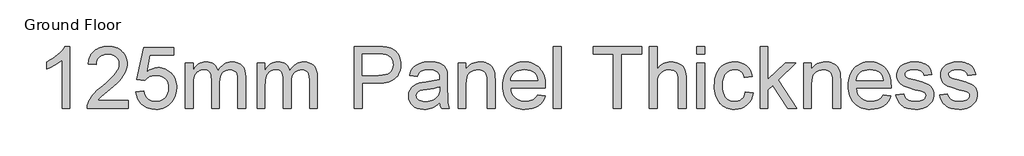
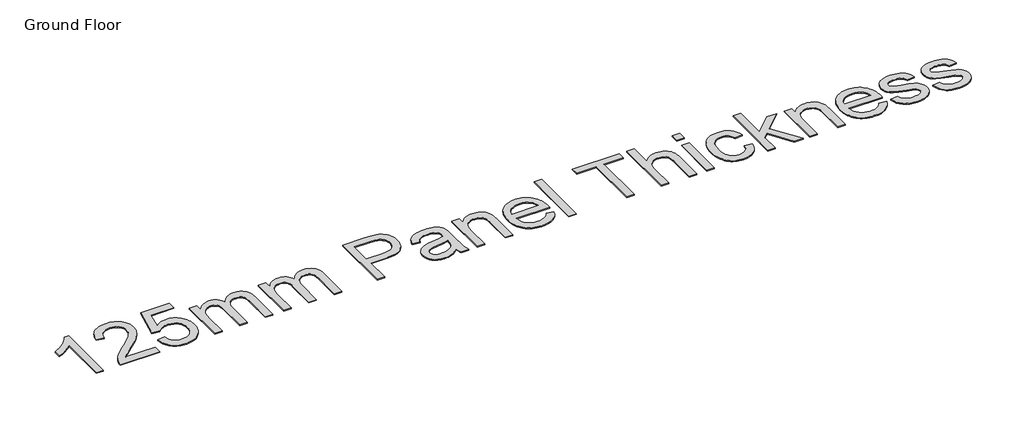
# One storey, part 9 of 11: 1 proxy.
"""IFC4 building model written with IfcOpenShell, lengths in millimetres."""

import ifcopenshell
import ifcopenshell.guid

model = None  # the IFC model being written
_history = None  # IfcOwnerHistory: only IFC2X3 demands one
_inside = {}  # id of a spatial element -> (the spatial element, [elements in it])
_under = {}  # id of a project, library or spatial element -> (it, [spatial elements below it])
_declared = {}  # id of a project -> (the project, [libraries it declares])
_typed = {}  # id of a type object -> (the type object, [elements of that type])
_made_of = {}  # id of a material, layer set ... -> (it, [elements and type objects made of it])


def new_model(schema):
    """Start an empty IFC model of exactly this schema.

    Asked for "IFC4X3", IfcOpenShell would pick the latest addendum, in which some entities
    have other attributes; the version numbers below select the first issue.
    IFC2X3 requires an IfcOwnerHistory on every rooted entity: one is made here for all.
    """
    global model, _history
    if schema == "IFC4X3":
        model = ifcopenshell.file(schema_version=(4, 3, 0, 0))
    else:
        model = ifcopenshell.file(schema=schema)
    _inside.clear()
    _under.clear()
    _declared.clear()
    _typed.clear()
    _made_of.clear()
    _history = None
    if model.schema == "IFC2X3":
        org = make("IfcOrganization", Name="unknown")
        user = make(
            "IfcPersonAndOrganization",
            ThePerson=make("IfcPerson", FamilyName="unknown"),
            TheOrganization=org,
        )
        app = make(
            "IfcApplication",
            ApplicationDeveloper=org,
            Version="unknown",
            ApplicationFullName="unknown",
            ApplicationIdentifier="unknown",
        )
        _history = make(
            "IfcOwnerHistory",
            OwningUser=user,
            OwningApplication=app,
            ChangeAction="ADDED",
            CreationDate=0,
        )
    return model


def make(cls, **values):
    """One entity of the class cls with the attributes given. An attribute that is None is left unset."""
    return model.create_entity(
        cls, **{name: value for name, value in values.items() if value is not None}
    )


def rooted(cls, **values):
    """An entity with a GlobalId (a new one), such as an element, a storey or a relation."""
    return make(cls, GlobalId=ifcopenshell.guid.new(), OwnerHistory=_history, **values)


def si_unit(unit_type, name, prefix=None):
    """IfcSIUnit, for example si_unit("LENGTHUNIT", "METRE", prefix="MILLI")."""
    return make("IfcSIUnit", UnitType=unit_type, Prefix=prefix, Name=name)


def assignment(units):
    """IfcUnitAssignment: the units of a project."""
    return None if units is None else make("IfcUnitAssignment", Units=units)


def point(xyz):
    """IfcCartesianPoint."""
    return None if xyz is None else make("IfcCartesianPoint", Coordinates=xyz)


def direction(xyz):
    """IfcDirection."""
    return None if xyz is None else make("IfcDirection", DirectionRatios=xyz)


def frame(location, z_axis=None, x_axis=None):
    """IfcAxis2Placement3D, a coordinate frame: its origin and axes. An axis left out is left unset."""
    return make(
        "IfcAxis2Placement3D",
        Location=point(location),
        Axis=direction(z_axis),
        RefDirection=direction(x_axis),
    )


def origin():
    """The frame at (0, 0, 0) with its axes left unset."""
    return frame((0.0, 0.0, 0.0))


def origin_with_axes():
    """The frame at (0, 0, 0) with the z axis (0, 0, 1) and the x axis (1, 0, 0) written out."""
    return frame((0.0, 0.0, 0.0), z_axis=(0.0, 0.0, 1.0), x_axis=(1.0, 0.0, 0.0))


def place(relative_to, where):
    """IfcLocalPlacement: puts the frame where relative to a parent placement (None: the world)."""
    return make(
        "IfcLocalPlacement", PlacementRelTo=relative_to, RelativePlacement=where
    )


def context(
    kind, dimensions, precision=None, world=None, true_north=None, identifier=None
):
    """IfcGeometricRepresentationContext, for example the 3D "Model" context."""
    return make(
        "IfcGeometricRepresentationContext",
        ContextIdentifier=identifier,
        ContextType=kind,
        CoordinateSpaceDimension=dimensions,
        Precision=precision,
        WorldCoordinateSystem=world,
        TrueNorth=true_north,
    )


def project(units=None, contexts=None):
    """IfcProject with its units and contexts."""
    return rooted(
        "IfcProject",
        Name="project",
        RepresentationContexts=contexts,
        UnitsInContext=assignment(units),
    )


def spatial(cls, under=None, at=None, **own):
    """A site, building, storey or space (cls), placed at a placement, below another one or the project."""
    s = rooted(cls, ObjectPlacement=at, **own)
    if under is not None:
        _under.setdefault(under.id(), (under, []))[1].append(s)
    return s


def polyline(points):
    """IfcPolyline through the points."""
    return make("IfcPolyline", Points=[point(p) for p in points])


def outline(outer, holes=None, kind="AREA"):
    """IfcArbitraryClosedProfileDef: a profile drawn as a closed curve; with holes, ...WithVoids."""
    if holes is None:
        return make("IfcArbitraryClosedProfileDef", ProfileType=kind, OuterCurve=outer)
    return make(
        "IfcArbitraryProfileDefWithVoids",
        ProfileType=kind,
        OuterCurve=outer,
        InnerCurves=holes,
    )


def extrude(swept, where, along, depth):
    """IfcExtrudedAreaSolid: the profile swept, set in the frame where, extruded along a direction by depth."""
    return make(
        "IfcExtrudedAreaSolid",
        SweptArea=swept,
        Position=where,
        ExtrudedDirection=direction(along),
        Depth=depth,
    )


def shape(context_of_items, identifier, shape_type, items):
    """IfcShapeRepresentation: the items that make up one representation, for example the "Body"."""
    return make(
        "IfcShapeRepresentation",
        ContextOfItems=context_of_items,
        RepresentationIdentifier=identifier,
        RepresentationType=shape_type,
        Items=items,
    )


def made_of(thing, what):
    """Note that an element or type object is made of a material, layer set ...; save() writes the relation."""
    if what is not None:
        _made_of.setdefault(what.id(), (what, []))[1].append(thing)
    return thing


def element(
    cls,
    number,
    at=None,
    inside=None,
    cuts=None,
    type_object=None,
    material=None,
    context=None,
    identifier="Body",
    shape_type=None,
    held_by="IfcProductDefinitionShape",
    body=None,
    shapes=None,
    **own,
):
    """One element of the class cls, such as IfcWall. Its Tag is "e" and its number.

    at: its placement. inside: the storey or other place that contains it. cuts: it is an
    opening in that element (IfcRelVoidsElement). A single representation is given by context,
    identifier, shape_type and body (its items); several are given by shapes. held_by: the class
    of the entity that holds the representations. save() writes the other relations.
    """
    e = rooted(cls, Tag="e%d" % number, ObjectPlacement=at, **own)
    if body is not None:
        shapes = [shape(context, identifier, shape_type, body)]
    if shapes is not None:
        e.Representation = make(held_by, Representations=shapes)
    if inside is not None:
        _inside.setdefault(inside.id(), (inside, []))[1].append(e)
    if cuts is not None:
        rooted(
            "IfcRelVoidsElement", RelatingBuildingElement=cuts, RelatedOpeningElement=e
        )
    if type_object is not None:
        _typed.setdefault(type_object.id(), (type_object, []))[1].append(e)
    return made_of(e, material)


def aggregate(whole, parts):
    """IfcRelAggregates: a whole, such as a stair, and the parts it consists of."""
    return rooted("IfcRelAggregates", RelatingObject=whole, RelatedObjects=parts)


def save(model, path):
    """Write the relations noted so far, then the file.

    IfcRelAggregates (storeys below a building ...), IfcRelContainedInSpatialStructure (elements
    in a storey), IfcRelDefinesByType, IfcRelAssociatesMaterial and IfcRelDeclares: one each for
    every whole, place, type object, material and project.
    """
    for whole, parts in _under.values():
        aggregate(whole, parts)
    for where, things in _inside.values():
        rooted(
            "IfcRelContainedInSpatialStructure",
            RelatedElements=things,
            RelatingStructure=where,
        )
    for kind, things in _typed.values():
        rooted("IfcRelDefinesByType", RelatedObjects=things, RelatingType=kind)
    for what, things in _made_of.values():
        rooted("IfcRelAssociatesMaterial", RelatedObjects=things, RelatingMaterial=what)
    for by, libraries in _declared.values():
        rooted("IfcRelDeclares", RelatingContext=by, RelatedDefinitions=libraries)
    model.write(path)


model = new_model("IFC4")

# Units and contexts
model_context = context("Model", 3, world=origin())
ifc_project = project(units=[si_unit("LENGTHUNIT", "METRE", prefix="MILLI")], contexts=[model_context])

# Site, building, storey
site = spatial("IfcSite", under=ifc_project)
building = spatial("IfcBuilding", under=site)
storey = spatial("IfcBuildingStorey", under=building, Name="Ground Floor", Elevation=0.0)

# Proxy
placement = place(None, origin())
element("IfcBuildingElementProxy", 1, Name="1200mm Arial", ObjectType="1200mm Arial", at=placement, inside=storey, context=model_context, shape_type="SweptSolid", body=[
    extrude(outline(polyline([(72010.1307302, 20341.9259002), (71859.4462649, 20341.9259002), (71859.4462649, 21281.3493631), (71796.5384438, 21230.4712831), (71716.7080508, 21179.6667796), (71632.9045323, 21135.2634228), (71558.0773345, 21103.588783), (71558.0773345, 21246.0326915), (71619.2285191, 21276.6956558), (71676.4249723, 21310.4120407), (71729.6666941, 21347.1818461), (71778.9536844, 21387.0050721), (71822.8144153, 21428.0423086), (71859.7773587, 21468.4541458), (71889.8425148, 21508.2405836), (71913.0098834, 21547.401622), (72010.1307302, 21547.401622), (72010.1307302, 20341.9259002)])), origin_with_axes(), (0.0, 0.0, 1.0), 20.0),
    extrude(outline(polyline([(73140.2642193, 20492.6103654), (73140.2642193, 20341.9259002), (72349.1707769, 20341.9259002), (72352.4817149, 20394.9744839), (72365.3575847, 20445.8157756), (72381.7835158, 20486.7150564), (72402.5136662, 20527.007332), (72427.548036, 20566.6926022), (72456.8866251, 20605.7708671), (72492.2952671, 20645.7688371), (72535.5397957, 20688.2132222), (72645.5365122, 20780.4412384), (72734.9686252, 20857.3837577), (72808.1403541, 20924.8717097), (72865.0516987, 20982.9050945), (72905.7026592, 21031.4839119), (72934.1583315, 21075.0411402), (72954.4838118, 21118.0097572), (72966.6790999, 21160.3897631), (72970.744196, 21202.1811577), (72966.9090262, 21241.4985459), (72955.4035168, 21277.6337549), (72936.2276678, 21310.5867846), (72909.3814792, 21340.3576351), (72876.354873, 21365.0149258), (72838.6377715, 21382.6272763), (72796.2301745, 21393.1946867), (72749.1320821, 21396.7171568), (72699.513998, 21393.2774601), (72655.1382323, 21382.9583701), (72616.0047851, 21365.7598869), (72582.1136563, 21341.6820103), (72554.6972506, 21311.5340808), (72534.9879727, 21276.1254387), (72522.9858226, 21235.4560842), (72518.6908003, 21189.5260171), (72368.0063351, 21208.3615752), (72380.9649783, 21286.1502231), (72391.4243233, 21321.3611286), (72404.5370172, 21354.1164217), (72420.3030599, 21384.4161025), (72438.7224516, 21412.2601711), (72459.7951921, 21437.6486272), (72483.5212815, 21460.5814711), (72509.6432025, 21480.929944), (72537.9034375, 21498.5652871), (72568.3019866, 21513.4875006), (72600.8388498, 21525.6965843), (72672.3275185, 21541.9753626), (72752.3694436, 21547.401622), (72833.1287386, 21541.3683573), (72870.1767548, 21533.8267764), (72905.0036834, 21523.2685631), (72937.6095245, 21509.6937175), (72967.994278, 21493.1022395), (72996.157944, 21473.4941292), (73022.1005225, 21450.8693864), (73045.380555, 21426.0097606), (73065.5565832, 21399.6970009), (73082.628607, 21371.9311073), (73096.5966265, 21342.7120799), (73107.4606417, 21312.0399185), (73115.2206525, 21279.9146233), (73119.876659, 21246.3361942), (73121.4286612, 21211.3046312), (73119.7547981, 21175.1142399), (73114.7332089, 21139.2365483), (73106.3638935, 21103.6715564), (73094.6468519, 21068.4192643), (73079.0394583, 21032.8634694), (73058.9990866, 20996.3879696), (73005.6194091, 20920.677855), (72968.7852243, 20878.6933223), (72920.5283036, 20830.2892488), (72789.7462543, 20714.2224793), (72616.4002582, 20569.2769732), (72578.8027183, 20531.0540339), (72548.4156655, 20492.6103654), (73140.2642193, 20492.6103654)])), origin_with_axes(), (0.0, 0.0, 1.0), 20.0),
    extrude(outline(polyline([(73290.9486846, 20662.1303888), (73441.6331498, 20680.9659469), (73452.8903388, 20632.5250852), (73469.2978758, 20590.5037643), (73490.8557607, 20554.9019842), (73517.5639936, 20525.719745), (73549.3673921, 20502.9938347), (73586.2107739, 20486.7610417), (73628.094139, 20477.0213659), (73675.0174875, 20473.7748073), (73732.4070788, 20478.2905587), (73783.0276413, 20491.8378132), (73826.8791751, 20514.4165707), (73863.9616802, 20546.0268311), (73893.4474222, 20585.105096), (73914.5086664, 20630.087867), (73927.1454129, 20680.975144), (73931.3576618, 20737.766927), (73927.4121274, 20791.4409101), (73915.5755242, 20839.1552049), (73895.8478522, 20880.9098113), (73868.2291114, 20916.7047295), (73832.6273313, 20945.4179192), (73788.9505414, 20965.9273404), (73737.1987418, 20978.2329931), (73677.3719323, 20982.3348774), (73639.0846136, 20980.6978025), (73604.2737799, 20975.7865779), (73572.9394309, 20967.6012035), (73545.0815668, 20956.1416793), (73497.8087304, 20926.0489321), (73460.4687079, 20888.1570866), (73309.7842427, 20906.9926448), (73441.6331498, 21528.5660638), (74025.5354525, 21528.5660638), (74025.5354525, 21377.8815986), (73563.4756666, 21377.8815986), (73499.022741, 21045.9048862), (73552.2000834, 21084.0174609), (73606.6650128, 21111.2407285), (73662.4175292, 21127.5746891), (73719.4576325, 21133.0193426), (73756.8965233, 21131.331684), (73792.8408935, 21126.268708), (73827.2907431, 21117.8304147), (73860.2460721, 21106.0168042), (73891.7068805, 21090.8278763), (73921.6731682, 21072.2636311), (73950.1449354, 21050.3240686), (73977.122182, 21025.0091888), (74001.7127941, 20997.0409601), (74023.0246579, 20967.141351), (74041.0577735, 20935.3103614), (74055.8121407, 20901.5479912), (74067.2877597, 20865.8542407), (74075.4846304, 20828.2291096), (74080.4027528, 20788.6725981), (74082.042127, 20747.1847061), (74076.137621, 20669.1201467), (74068.7569884, 20632.1296121), (74058.4241029, 20596.5002408), (74045.1389643, 20562.232033), (74028.9015728, 20529.3249885), (74009.7119282, 20497.7791074), (73987.5700306, 20467.5943897), (73957.5692539, 20433.7262536), (73924.956515, 20404.3738689), (73889.731814, 20379.5372357), (73851.8951508, 20359.216354), (73811.4465254, 20343.4112237), (73768.3859379, 20332.121845), (73722.7133882, 20325.3482178), (73674.4288763, 20323.090342), (73596.6678196, 20328.8936805), (73560.6084863, 20336.1478536), (73526.4299497, 20346.3036959), (73494.1322098, 20359.3612075), (73463.7152665, 20375.3203883), (73435.17912, 20394.1812383), (73408.5237702, 20415.9437576), (73384.186077, 20440.1021084), (73362.6029002, 20466.1504529), (73343.7742398, 20494.0887912), (73327.7000959, 20523.9171232), (73314.3804684, 20555.635449), (73303.8153573, 20589.2437685), (73290.9486846, 20662.1303888)])), origin_with_axes(), (0.0, 0.0, 1.0), 20.0),
    extrude(outline(polyline([(74251.5621504, 20341.9259002), (74251.5621504, 21227.1971334), (74402.2466156, 21227.1971334), (74402.2466156, 21081.5158633), (74423.2894657, 21116.7865496), (74447.5696774, 21148.4335982), (74475.0872506, 21176.4570092), (74505.8421854, 21200.8567825), (74539.3378411, 21220.6212427), (74575.0775769, 21234.7387143), (74613.0613929, 21243.2091972), (74653.2892891, 21246.0326915), (74697.2695816, 21243.1540149), (74737.0928076, 21234.5179851), (74772.758967, 21220.124602), (74804.2680599, 21199.9738657), (74831.5281158, 21174.6359933), (74854.4471641, 21144.6812019), (74873.0252048, 21110.1094914), (74887.262238, 21070.9208618), (74913.7589387, 21111.9626969), (74942.1870199, 21147.5322873), (74972.5464816, 21177.6296331), (75004.8373237, 21202.2547341), (75039.0595463, 21221.4075905), (75075.2131494, 21235.0882022), (75113.2981329, 21243.2965692), (75153.3144969, 21246.0326915), (75213.6379471, 21241.4801518), (75266.5853633, 21227.8225328), (75312.1567454, 21205.0598343), (75350.3520936, 21173.1920565), (75366.527405, 21153.7517923), (75380.5460083, 21131.8513173), (75402.1130903, 21080.6697347), (75415.0533395, 21019.6473088), (75419.3667559, 20948.7840394), (75419.3667559, 20341.9259002), (75268.6822906, 20341.9259002), (75268.6822906, 20884.0368083), (75265.1874117, 20959.1950999), (75254.7027748, 21009.8524506), (75246.2966712, 21028.1269887), (75235.0578763, 21044.5437228), (75220.98639, 21059.1026527), (75204.0822123, 21071.8037786), (75184.9615456, 21082.1044745), (75164.2405922, 21089.4621144), (75117.9978254, 21095.3482263), (75075.2959228, 21091.5774359), (75036.3648107, 21080.2650645), (75001.204489, 21061.4111123), (74969.8149577, 21035.0155791), (74943.9988387, 21000.3059129), (74925.5587537, 20956.5095613), (74914.4947027, 20903.6265245), (74910.8066857, 20841.6568024), (74910.8066857, 20341.9259002), (74760.1222205, 20341.9259002), (74760.1222205, 20900.8122273), (74757.9425197, 20946.4663829), (74751.4034172, 20986.0136973), (74740.5049131, 21019.4541707), (74725.2470074, 21046.7878029), (74705.0226947, 21068.0329882), (74679.2249698, 21083.2081205), (74647.8538326, 21092.3131998), (74610.9092833, 21095.3482263), (74581.3131767, 21093.3248753), (74552.8575044, 21087.2548224), (74525.5422663, 21077.1380675), (74499.3674623, 21062.9746107), (74475.528709, 21044.9116048), (74455.2216229, 21023.0962025), (74438.4462039, 20997.5284038), (74425.2024521, 20968.2082088), (74415.1592736, 20933.5721189), (74407.9855747, 20892.0566358), (74403.6813554, 20843.6617593), (74402.2466156, 20788.3874895), (74402.2466156, 20341.9259002), (74251.5621504, 20341.9259002)])), origin_with_axes(), (0.0, 0.0, 1.0), 20.0),
    extrude(outline(polyline([(75645.3934537, 20341.9259002), (75645.3934537, 21227.1971334), (75796.0779189, 21227.1971334), (75796.0779189, 21081.5158633), (75817.120769, 21116.7865496), (75841.4009807, 21148.4335982), (75868.918554, 21176.4570092), (75899.6734888, 21200.8567825), (75933.1691444, 21220.6212427), (75968.9088802, 21234.7387143), (76006.8926963, 21243.2091972), (76047.1205924, 21246.0326915), (76091.1008849, 21243.1540149), (76130.9241109, 21234.5179851), (76166.5902704, 21220.124602), (76198.0993632, 21199.9738657), (76225.3594191, 21174.6359933), (76248.2784674, 21144.6812019), (76266.8565081, 21110.1094914), (76281.0935414, 21070.9208618), (76307.5902421, 21111.9626969), (76336.0183232, 21147.5322873), (76366.3777849, 21177.6296331), (76398.668627, 21202.2547341), (76432.8908496, 21221.4075905), (76469.0444527, 21235.0882022), (76507.1294362, 21243.2965692), (76547.1458003, 21246.0326915), (76607.4692504, 21241.4801518), (76660.4166666, 21227.8225328), (76705.9880487, 21205.0598343), (76744.1833969, 21173.1920565), (76760.3587084, 21153.7517923), (76774.3773116, 21131.8513173), (76795.9443936, 21080.6697347), (76808.8846428, 21019.6473088), (76813.1980592, 20948.7840394), (76813.1980592, 20341.9259002), (76662.513594, 20341.9259002), (76662.513594, 20884.0368083), (76659.018715, 20959.1950999), (76648.5340781, 21009.8524506), (76640.1279745, 21028.1269887), (76628.8891796, 21044.5437228), (76614.8176933, 21059.1026527), (76597.9135156, 21071.8037786), (76578.7928489, 21082.1044745), (76558.0718955, 21089.4621144), (76511.8291287, 21095.3482263), (76469.1272261, 21091.5774359), (76430.196114, 21080.2650645), (76395.0357923, 21061.4111123), (76363.6462611, 21035.0155791), (76337.8301421, 21000.3059129), (76319.3900571, 20956.5095613), (76308.326006, 20903.6265245), (76304.637989, 20841.6568024), (76304.637989, 20341.9259002), (76153.9535238, 20341.9259002), (76153.9535238, 20900.8122273), (76151.773823, 20946.4663829), (76145.2347205, 20986.0136973), (76134.3362164, 21019.4541707), (76119.0783107, 21046.7878029), (76098.853998, 21068.0329882), (76073.0562731, 21083.2081205), (76041.6851359, 21092.3131998), (76004.7405866, 21095.3482263), (75975.1444801, 21093.3248753), (75946.6888077, 21087.2548224), (75919.3735696, 21077.1380675), (75893.1987656, 21062.9746107), (75869.3600124, 21044.9116048), (75849.0529262, 21023.0962025), (75832.2775072, 20997.5284038), (75819.0337554, 20968.2082088), (75808.9905769, 20933.5721189), (75801.816878, 20892.0566358), (75797.5126587, 20843.6617593), (75796.0779189, 20788.3874895), (75796.0779189, 20341.9259002), (75645.3934537, 20341.9259002)])), origin_with_axes(), (0.0, 0.0, 1.0), 20.0),
    extrude(outline(polyline([(77528.949269, 20341.9259002), (77528.949269, 21547.401622), (77975.7051639, 21547.401622), (78079.7421922, 21544.5321424), (78155.8201888, 21535.9237037), (78197.7495392, 21526.8830037), (78236.1288283, 21514.4761834), (78270.9580562, 21498.7032429), (78302.2372229, 21479.5641821), (78330.297422, 21456.6635279), (78355.4697476, 21429.6058071), (78377.7541994, 21398.3910198), (78397.1507776, 21363.019166), (78412.8593388, 21324.658271), (78424.0797397, 21284.47636), (78430.8119802, 21242.4734332), (78433.0560603, 21198.6494906), (78426.9952045, 21124.6500272), (78419.4191346, 21089.8713831), (78408.8126369, 21056.573464), (78395.1757112, 21024.75627), (78378.5083575, 20994.4198009), (78358.8105759, 20965.5640569), (78336.0823664, 20938.189038), (78309.3994255, 20913.2190475), (78277.8374495, 20891.5783892), (78241.3964386, 20873.2670629), (78200.0763928, 20858.2850686), (78153.877312, 20846.6324064), (78102.7991962, 20838.3090763), (78046.8420455, 20833.3150782), (77986.0058598, 20831.6504122), (77679.6337342, 20831.6504122), (77679.6337342, 20341.9259002), (77528.949269, 20341.9259002)]), holes=[polyline([(77679.6337342, 20982.3348774), (77994.8350277, 20982.3348774), (78067.3077807, 20985.7929681), (78128.4497683, 20996.1672404), (78178.2609905, 21013.4576942), (78216.7414472, 21037.6643295), (78245.4546369, 21068.1433528), (78265.9640581, 21104.2509706), (78278.2697109, 21145.9871829), (78282.3715951, 21193.3519898), (78279.952771, 21228.5215086), (78272.6962986, 21261.0422769), (78260.6021781, 21290.9142949), (78243.6704092, 21318.1375626), (78222.802303, 21341.8291631), (78198.8991704, 21361.1061796), (78171.9610113, 21375.9686122), (78141.9878258, 21386.4164609), (78083.8624705, 21394.1419828), (77991.3033605, 21396.7171568), (77679.6337342, 21396.7171568), (77679.6337342, 20982.3348774)])]), origin_with_axes(), (0.0, 0.0, 1.0), 20.0),
    extrude(outline(polyline([(79186.4783865, 20454.9392491), (79150.7478477, 20421.4068052), (79114.48388, 20393.2086503), (79077.6864834, 20370.3447843), (79040.355658, 20352.8152072), (79002.0683393, 20339.8105787), (78962.4014632, 20330.5215583), (78921.3550296, 20324.9481461), (78878.9290385, 20323.090342), (78811.8365596, 20327.5601083), (78753.0030315, 20340.969407), (78702.4284543, 20363.3182382), (78660.1128278, 20394.6066019), (78626.6999456, 20432.8479353), (78602.8336011, 20476.0556756), (78588.5137945, 20524.2298229), (78583.7405256, 20577.3703771), (78585.5431473, 20609.3209284), (78590.9510127, 20639.8367399), (78599.9641216, 20668.9178116), (78612.582474, 20696.5641435), (78628.1346853, 20722.1687304), (78645.949371, 20745.1245669), (78666.0265308, 20765.431653), (78688.366165, 20783.0899888), (78738.2141753, 20811.7847844), (78793.8747212, 20832.533329), (78848.1005273, 20844.0848236), (78924.2521003, 20855.1948599), (79078.3210799, 20879.0336131), (79137.8075985, 20892.4980942), (79185.5954697, 20906.9926448), (79186.4783865, 20940.5434827), (79183.8848184, 20977.0741649), (79176.1041142, 21007.7923115), (79163.1362739, 21032.6979225), (79144.9812974, 21051.7909981), (79113.6009632, 21070.8472854), (79075.3780239, 21084.4589193), (79030.3124795, 21092.6258995), (78978.40433, 21095.3482263), (78930.1382122, 21093.5364075), (78888.6411232, 21088.100951), (78853.9130628, 21079.0418569), (78825.9540312, 21066.3591251), (78802.9798006, 21049.0594743), (78783.2061434, 21026.149623), (78766.6330595, 20997.6295713), (78753.2605489, 20963.4993192), (78602.5760837, 20982.3348774), (78614.0448049, 21025.7449528), (78628.7324936, 21064.7404443), (78646.6391497, 21099.3213519), (78667.7647733, 21129.4876755), (78693.0198722, 21155.8464204), (78723.3149545, 21179.004592), (78758.6500202, 21198.9621902), (78799.0250691, 21215.7192151), (78843.621564, 21228.9813611), (78891.6209673, 21238.4543224), (78943.0232791, 21244.1380993), (78997.8284993, 21246.0326915), (79051.4013149, 21244.3588285), (79099.6950238, 21239.3372392), (79142.7096261, 21230.9679238), (79180.4451217, 21219.2508823), (79213.2142105, 21205.004652), (79241.3295919, 21189.0477705), (79264.7912662, 21171.3802377), (79283.5992332, 21152.0020536), (79298.8479419, 21130.4349716), (79311.6318412, 21106.2007452), (79329.8052118, 21049.7308589), (79335.3234417, 20997.6387684), (79337.1628517, 20917.8819518), (79337.1628517, 20730.4092871), (79339.0758381, 20567.1064694), (79344.8147972, 20468.6244593), (79356.1455626, 20403.9140164), (79374.833968, 20341.9259002), (79224.1495028, 20341.9259002), (79210.7585981, 20367.0890287), (79200.0164439, 20394.3122963), (79186.4783865, 20454.9392491)]), holes=[polyline([(79186.4783865, 20756.3081796), (79140.9345955, 20743.2667628), (79085.2372614, 20731.2186275), (78943.3819641, 20710.102201), (78865.2070401, 20698.5507063), (78813.740349, 20685.6748365), (78780.00557, 20668.9729939), (78755.0263825, 20645.943581), (78739.5753387, 20618.3524314), (78734.4249908, 20587.9653786), (78737.230091, 20564.5496896), (78745.6453916, 20543.1573515), (78759.6708927, 20523.7883645), (78779.3065942, 20506.4427284), (78804.3685551, 20492.1505129), (78834.6728345, 20481.9417876), (78870.2194323, 20475.8165523), (78911.0083485, 20473.7748073), (78952.6525903, 20476.0280845), (78991.9423874, 20482.7879161), (79028.8777397, 20494.0543022), (79063.4586473, 20509.8272428), (79094.6550405, 20528.8007567), (79121.4368497, 20549.6688629), (79143.804075, 20572.4315613), (79161.7567164, 20597.088852), (79172.186171, 20619.1617718), (79179.6357814, 20645.943581), (79184.1055476, 20677.4342798), (79185.5954697, 20713.6338681), (79186.4783865, 20756.3081796)])]), origin_with_axes(), (0.0, 0.0, 1.0), 20.0),
    extrude(outline(polyline([(79544.3539914, 20341.9259002), (79544.3539914, 21227.1971334), (79695.0384566, 21227.1971334), (79695.0384566, 21103.588783), (79719.8980824, 21136.9740741), (79747.3880645, 21165.907993), (79777.5084029, 21190.3905398), (79810.2590975, 21210.4217144), (79845.6401484, 21226.0015169), (79883.6515555, 21237.1299472), (79924.2933189, 21243.8070055), (79967.5654386, 21246.0326915), (80005.4848753, 21244.2392668), (80041.8408135, 21238.8589926), (80076.6332531, 21229.891869), (80109.8621944, 21217.3378959), (80140.2676413, 21201.868458), (80166.589598, 21184.1549399), (80188.8280646, 21164.1973417), (80206.9830411, 21141.9956633), (80234.3902497, 21090.9704306), (80252.1589501, 21031.1896063), (80258.1186384, 20974.0207443), (80260.1052012, 20885.5083363), (80260.1052012, 20341.9259002), (80109.420736, 20341.9259002), (80109.420736, 20865.2012501), (80105.0797284, 20943.1186567), (80099.653469, 20973.6344682), (80092.0567058, 20998.5216852), (80081.7100247, 21019.4817619), (80068.0340115, 21038.2161525), (80051.0286663, 21054.724857), (80030.693989, 21069.0078755), (80007.7289554, 21080.531779), (79982.8325414, 21088.7631386), (79956.0047469, 21093.7019544), (79927.245572, 21095.3482263), (79881.4902488, 21091.6510123), (79838.9906813, 21080.5593701), (79799.7468695, 21062.0732998), (79763.7588133, 21036.1928015), (79747.6524797, 21019.7438778), (79733.6936572, 20999.9748191), (79721.8823459, 20976.8856253), (79712.2185458, 20950.4762966), (79699.3334789, 20887.6972341), (79695.0384566, 20811.6376316), (79695.0384566, 20341.9259002), (79544.3539914, 20341.9259002)])), origin_with_axes(), (0.0, 0.0, 1.0), 20.0),
    extrude(outline(polyline([(81087.1039263, 20605.6237143), (81234.8453356, 20586.7881562), (81212.1930018, 20527.6143373), (81181.6128109, 20475.4670644), (81143.1047631, 20430.3463377), (81096.6688582, 20392.2521571), (81042.783343, 20361.993863), (80981.9264639, 20340.3807958), (80914.0982211, 20327.4129555), (80839.2986144, 20323.090342), (80791.2762184, 20324.9550439), (80745.8014053, 20330.5491495), (80702.874175, 20339.8726588), (80662.4945275, 20352.9255718), (80624.6624628, 20369.7078886), (80589.377981, 20390.2196091), (80556.6410819, 20414.4607333), (80526.4517657, 20442.4312613), (80499.3434612, 20473.7679095), (80475.8495973, 20508.1073945), (80455.9701739, 20545.4497162), (80439.7051912, 20585.7948748), (80427.0546491, 20629.1428701), (80418.0185476, 20675.4937023), (80412.5968867, 20724.8473712), (80410.7896664, 20777.2038769), (80412.6152808, 20831.342311), (80418.092124, 20882.3629452), (80427.220196, 20930.2657795), (80439.9994968, 20975.0508139), (80456.4300264, 21016.7180484), (80476.5117849, 21055.2674829), (80500.2447721, 21090.6991176), (80527.6289881, 21123.0129523), (80557.9240704, 21151.8457037), (80590.3896565, 21176.8340882), (80625.0257463, 21197.9781059), (80661.8323399, 21215.2777567), (80700.8094373, 21228.7330407), (80741.9570385, 21238.3439578), (80785.2751434, 21244.1105081), (80830.7637521, 21246.0326915), (80874.764738, 21244.1151066), (80916.7101832, 21238.3623519), (80956.6000878, 21228.7744274), (80994.4344518, 21215.3513331), (81030.2132751, 21198.093069), (81063.9365577, 21176.9996351), (81095.6042997, 21152.0710314), (81125.216501, 21123.3072579), (81152.0144051, 21091.0669996), (81175.2392553, 21055.7089413), (81194.8910517, 21017.2330832), (81210.9697941, 20975.6394251), (81223.4754827, 20930.9279671), (81232.4081174, 20883.0987092), (81237.7676982, 20832.1516514), (81239.5542251, 20778.0867937), (81238.6713084, 20737.4726214), (80561.4741316, 20737.4726214), (80570.202132, 20677.3423093), (80587.5569651, 20624.6800017), (80613.538631, 20579.4856986), (80648.1471297, 20541.7594), (80689.4694748, 20512.0161407), (80735.59268, 20490.7709554), (80786.5167451, 20478.0238443), (80842.2416704, 20473.7748073), (80883.9227004, 20475.7429759), (80922.4399453, 20481.647482), (80957.793405, 20491.4883253), (80989.9830796, 20505.265506), (81019.008969, 20523.3469061), (81044.8710733, 20546.1004075), (81067.5693924, 20573.5260102), (81087.1039263, 20605.6237143)]), holes=[polyline([(80561.4741316, 20888.1570866), (81088.8697599, 20888.1570866), (81081.1258439, 20930.7946099), (81068.4890974, 20967.7667504), (81050.9595203, 20999.0735082), (81028.5371127, 21024.7148832), (80987.4446939, 21055.6169708), (80940.6868923, 21077.6898905), (80888.263708, 21090.9336424), (80830.1751409, 21095.3482263), (80777.1909366, 21091.8257562), (80728.602922, 21081.2583459), (80684.4110974, 21063.6459954), (80644.6154625, 21038.9887046), (80611.2209744, 21008.4269079), (80586.2325899, 20973.1010393), (80569.650309, 20933.0110989), (80561.4741316, 20888.1570866)])]), origin_with_axes(), (0.0, 0.0, 1.0), 20.0),
    extrude(outline(polyline([(81390.2386904, 20341.9259002), (81390.2386904, 21547.401622), (81540.9231556, 21547.401622), (81540.9231556, 20341.9259002), (81390.2386904, 20341.9259002)])), origin_with_axes(), (0.0, 0.0, 1.0), 20.0),
    extrude(outline(polyline([(82558.0432959, 20341.9259002), (82558.0432959, 21396.7171568), (82162.4965746, 21396.7171568), (82162.4965746, 21547.401622), (83104.2744823, 21547.401622), (83104.2744823, 21396.7171568), (82708.7277611, 21396.7171568), (82708.7277611, 20341.9259002), (82558.0432959, 20341.9259002)])), origin_with_axes(), (0.0, 0.0, 1.0), 20.0),
    extrude(outline(polyline([(83254.9589475, 20341.9259002), (83254.9589475, 21547.401622), (83405.6434127, 21547.401622), (83405.6434127, 21104.1773942), (83432.4666087, 21137.4247295), (83460.9912589, 21166.2390868), (83491.2173634, 21190.620466), (83523.144922, 21210.5688672), (83556.7739349, 21226.0842903), (83592.104402, 21237.1667354), (83629.1363233, 21243.8162025), (83667.8696989, 21246.0326915), (83714.9769884, 21243.6138674), (83758.8837045, 21236.3573951), (83799.5898473, 21224.2632745), (83837.0954167, 21207.3315056), (83870.4439196, 21186.1323057), (83898.6788627, 21161.2358916), (83921.8002461, 21132.6422636), (83939.8080697, 21100.3514214), (83953.3277331, 21062.3676054), (83962.9846354, 21016.6950557), (83968.7787769, 20963.3337723), (83970.7101573, 20902.2837552), (83970.7101573, 20341.9259002), (83820.0256921, 20341.9259002), (83820.0256921, 20886.6855586), (83817.0274539, 20937.5636386), (83808.0327391, 20981.0105022), (83793.0415478, 21017.0261495), (83772.0538799, 21045.6105806), (83745.5663763, 21067.3708006), (83714.0756775, 21082.9138149), (83677.5817836, 21092.2396234), (83636.0846945, 21095.3482263), (83603.7570642, 21093.2512989), (83572.4043212, 21086.9605168), (83542.0264654, 21076.47588), (83512.6234969, 21061.7973883), (83485.7865054, 21043.5320473), (83463.1065804, 21022.2868621), (83444.5837219, 20998.0618327), (83430.21793, 20970.8569591), (83419.4665787, 20939.4214427), (83411.7870421, 20902.5044844), (83407.1793201, 20860.1060845), (83405.6434127, 20812.2262428), (83405.6434127, 20341.9259002), (83254.9589475, 20341.9259002)])), origin_with_axes(), (0.0, 0.0, 1.0), 20.0),
    extrude(outline(polyline([(84177.901297, 20341.9259002), (84177.901297, 21227.1971334), (84328.5857622, 21227.1971334), (84328.5857622, 20341.9259002), (84177.901297, 20341.9259002)])), origin_with_axes(), (0.0, 0.0, 1.0), 20.0),
    extrude(outline(polyline([(84177.901297, 21396.7171568), (84177.901297, 21547.401622), (84328.5857622, 21547.401622), (84328.5857622, 21396.7171568), (84177.901297, 21396.7171568)])), origin_with_axes(), (0.0, 0.0, 1.0), 20.0),
    extrude(outline(polyline([(85119.6792047, 20662.1303888), (85270.3636699, 20643.2948306), (85253.974527, 20572.192438), (85228.3515461, 20509.2754198), (85193.494727, 20454.543776), (85149.4040699, 20407.9975065), (85097.9373788, 20370.8506221), (85040.9524577, 20344.3171332), (84978.4493067, 20328.3970398), (84910.4279258, 20323.090342), (84867.0799305, 20324.9412483), (84825.9162345, 20330.4939672), (84786.9368378, 20339.7484986), (84750.1417405, 20352.7048426), (84715.5309426, 20369.3629992), (84683.104444, 20389.7229684), (84652.8622447, 20413.7847502), (84624.8043448, 20441.5483445), (84599.5239539, 20472.7700296), (84577.6142818, 20507.2060836), (84559.0753285, 20544.8565065), (84543.907094, 20585.7212984), (84532.1095783, 20629.8004592), (84523.6827813, 20677.0939889), (84518.6267032, 20727.6018876), (84516.9413438, 20781.3241552), (84519.8200204, 20850.605532), (84528.4560502, 20915.4171425), (84542.8494333, 20975.7589867), (84563.0001696, 21031.6310647), (84589.0462148, 21081.9113364), (84621.1255248, 21125.4777617), (84659.2380995, 21162.3303406), (84703.3839389, 21192.469073), (84751.5672833, 21215.9031561), (84801.7923726, 21232.6417869), (84854.0592071, 21242.6849654), (84908.3677866, 21246.0326915), (84975.2211422, 21241.4341666), (85035.6917452, 21227.6385918), (85089.7795955, 21204.6459671), (85137.4846932, 21172.4562925), (85177.997698, 21131.805332), (85210.5092693, 21083.4288497), (85235.0194072, 21027.3268454), (85251.5281117, 20963.4993192), (85100.8436465, 20944.6637611), (85089.0806197, 20979.860871), (85073.5100143, 21010.4042736), (85054.1318302, 21036.293969), (85030.9460674, 21057.5299572), (85004.5413372, 21074.0754499), (84975.5062508, 21085.893659), (84943.840808, 21092.9845845), (84909.545009, 21095.3482263), (84858.3450324, 21090.6945191), (84812.1666449, 21076.7333974), (84771.0098467, 21053.4648612), (84734.8746377, 21020.8889105), (84719.1131935, 21000.9221152), (84705.4532752, 20978.2513872), (84684.4380162, 20924.7981333), (84671.8288608, 20860.5291488), (84667.625809, 20785.4444336), (84671.7368903, 20709.2284812), (84684.0701342, 20644.2145356), (84704.6255407, 20590.4025968), (84717.9865549, 20567.6973799), (84733.4031097, 20547.7926647), (84768.8209488, 20515.4098521), (84809.2971653, 20492.2792716), (84854.8317593, 20478.4009233), (84905.4247307, 20473.7748073), (84946.1952528, 20476.6626809), (84983.4525019, 20485.3263019), (85017.1964779, 20499.7656702), (85047.4271808, 20519.9807859), (85073.2984821, 20546.192378), (85093.9642532, 20578.6211759), (85109.4244941, 20617.2671795), (85119.6792047, 20662.1303888)])), origin_with_axes(), (0.0, 0.0, 1.0), 20.0),
    extrude(outline(polyline([(85402.212577, 20341.9259002), (85402.212577, 21547.401622), (85552.8970422, 21547.401622), (85552.8970422, 20899.6350049), (85890.7598666, 21227.1971334), (86099.1282286, 21227.1971334), (85757.1451259, 20895.5147265), (86117.9637868, 20341.9259002), (85941.9690403, 20341.9259002), (85649.1349721, 20790.7419343), (85552.8970422, 20697.4470603), (85552.8970422, 20341.9259002), (85402.212577, 20341.9259002)])), origin_with_axes(), (0.0, 0.0, 1.0), 20.0),
    extrude(outline(polyline([(86249.8126939, 20341.9259002), (86249.8126939, 21227.1971334), (86400.4971591, 21227.1971334), (86400.4971591, 21103.588783), (86425.3567849, 21136.9740741), (86452.846767, 21165.907993), (86482.9671054, 21190.3905398), (86515.7178, 21210.4217144), (86551.0988509, 21226.0015169), (86589.110258, 21237.1299472), (86629.7520214, 21243.8070055), (86673.0241411, 21246.0326915), (86710.9435778, 21244.2392668), (86747.2995159, 21238.8589926), (86782.0919556, 21229.891869), (86815.3208968, 21217.3378959), (86845.7263437, 21201.868458), (86872.0483005, 21184.1549399), (86894.2867671, 21164.1973417), (86912.4417436, 21141.9956633), (86939.8489522, 21090.9704306), (86957.6176526, 21031.1896063), (86963.5773409, 20974.0207443), (86965.5639037, 20885.5083363), (86965.5639037, 20341.9259002), (86814.8794385, 20341.9259002), (86814.8794385, 20865.2012501), (86810.5384309, 20943.1186567), (86805.1121715, 20973.6344682), (86797.5154083, 20998.5216852), (86787.1687272, 21019.4817619), (86773.492714, 21038.2161525), (86756.4873688, 21054.724857), (86736.1526915, 21069.0078755), (86713.1876579, 21080.531779), (86688.2912439, 21088.7631386), (86661.4634494, 21093.7019544), (86632.7042744, 21095.3482263), (86586.9489513, 21091.6510123), (86544.4493838, 21080.5593701), (86505.205572, 21062.0732998), (86469.2175158, 21036.1928015), (86453.1111822, 21019.7438778), (86439.1523597, 20999.9748191), (86427.3410484, 20976.8856253), (86417.6772483, 20950.4762966), (86404.7921814, 20887.6972341), (86400.4971591, 20811.6376316), (86400.4971591, 20341.9259002), (86249.8126939, 20341.9259002)])), origin_with_axes(), (0.0, 0.0, 1.0), 20.0),
    extrude(outline(polyline([(87792.5626288, 20605.6237143), (87940.3040381, 20586.7881562), (87917.6517042, 20527.6143373), (87887.0715134, 20475.4670644), (87848.5634655, 20430.3463377), (87802.1275607, 20392.2521571), (87748.2420455, 20361.993863), (87687.3851664, 20340.3807958), (87619.5569236, 20327.4129555), (87544.7573169, 20323.090342), (87496.7349209, 20324.9550439), (87451.2601078, 20330.5491495), (87408.3328775, 20339.8726588), (87367.95323, 20352.9255718), (87330.1211653, 20369.7078886), (87294.8366835, 20390.2196091), (87262.0997844, 20414.4607333), (87231.9104682, 20442.4312613), (87204.8021637, 20473.7679095), (87181.3082997, 20508.1073945), (87161.4288764, 20545.4497162), (87145.1638937, 20585.7948748), (87132.5133516, 20629.1428701), (87123.4772501, 20675.4937023), (87118.0555892, 20724.8473712), (87116.2483689, 20777.2038769), (87118.0739833, 20831.342311), (87123.5508265, 20882.3629452), (87132.6788985, 20930.2657795), (87145.4581993, 20975.0508139), (87161.8887289, 21016.7180484), (87181.9704873, 21055.2674829), (87205.7034746, 21090.6991176), (87233.0876906, 21123.0129523), (87263.3827729, 21151.8457037), (87295.8483589, 21176.8340882), (87330.4844488, 21197.9781059), (87367.2910424, 21215.2777567), (87406.2681398, 21228.7330407), (87447.415741, 21238.3439578), (87490.7338459, 21244.1105081), (87536.2224546, 21246.0326915), (87580.2234405, 21244.1151066), (87622.1688857, 21238.3623519), (87662.0587903, 21228.7744274), (87699.8931542, 21215.3513331), (87735.6719775, 21198.093069), (87769.3952602, 21176.9996351), (87801.0630022, 21152.0710314), (87830.6752035, 21123.3072579), (87857.4731076, 21091.0669996), (87880.6979578, 21055.7089413), (87900.3497542, 21017.2330832), (87916.4284966, 20975.6394251), (87928.9341852, 20930.9279671), (87937.8668199, 20883.0987092), (87943.2264007, 20832.1516514), (87945.0129276, 20778.0867937), (87944.1300108, 20737.4726214), (87266.9328341, 20737.4726214), (87275.6608345, 20677.3423093), (87293.0156676, 20624.6800017), (87318.9973335, 20579.4856986), (87353.6058322, 20541.7594), (87394.9281773, 20512.0161407), (87441.0513824, 20490.7709554), (87491.9754476, 20478.0238443), (87547.7003728, 20473.7748073), (87589.3814029, 20475.7429759), (87627.8986478, 20481.647482), (87663.2521075, 20491.4883253), (87695.4417821, 20505.265506), (87724.4676715, 20523.3469061), (87750.3297758, 20546.1004075), (87773.0280949, 20573.5260102), (87792.5626288, 20605.6237143)]), holes=[polyline([(87266.9328341, 20888.1570866), (87794.3284624, 20888.1570866), (87786.5845464, 20930.7946099), (87773.9477999, 20967.7667504), (87756.4182228, 20999.0735082), (87733.9958152, 21024.7148832), (87692.9033963, 21055.6169708), (87646.1455948, 21077.6898905), (87593.7224104, 21090.9336424), (87535.6338434, 21095.3482263), (87482.649639, 21091.8257562), (87434.0616245, 21081.2583459), (87389.8697999, 21063.6459954), (87350.074165, 21038.9887046), (87316.6796769, 21008.4269079), (87291.6912924, 20973.1010393), (87275.1090115, 20933.0110989), (87266.9328341, 20888.1570866)])]), origin_with_axes(), (0.0, 0.0, 1.0), 20.0),
    extrude(outline(polyline([(88039.1907184, 20605.6237143), (88189.8751836, 20624.4592725), (88198.980263, 20590.0990941), (88213.6403605, 20560.0063469), (88233.8554761, 20534.1810309), (88259.6256099, 20512.6231459), (88291.0243382, 20495.6269978), (88328.1252374, 20483.4868919), (88370.9283075, 20476.2028284), (88419.4335486, 20473.7748073), (88467.8836074, 20476.0004933), (88509.6382138, 20482.6775515), (88544.697368, 20493.8059819), (88573.0610698, 20509.3857844), (88594.9500485, 20527.9638251), (88610.5850333, 20548.0869703), (88619.9660242, 20569.7552198), (88623.0930211, 20592.9685737), (88619.9476301, 20613.312448), (88610.5114569, 20631.375454), (88594.7845016, 20647.1575916), (88572.7667642, 20660.6588608), (88516.3336661, 20679.7887246), (88417.667715, 20703.6274778), (88280.1534252, 20743.3955215), (88190.7581004, 20777.3510297), (88160.067545, 20794.374769), (88133.331721, 20814.3967466), (88110.5506284, 20837.4169624), (88091.7242673, 20863.4354165), (88076.9813964, 20891.6703597), (88066.4507742, 20921.3400426), (88060.132401, 20952.4444653), (88058.0262766, 20984.9836278), (88059.7185337, 21014.7360841), (88064.7953053, 21043.3665004), (88073.2565912, 21070.8748766), (88085.1023914, 21097.2612127), (88099.8728535, 21121.9920798), (88117.108125, 21144.5340491), (88136.8082058, 21164.8871204), (88158.973096, 21183.051294), (88200.5805497, 21207.2947174), (88254.7695676, 21227.6385918), (88317.4198714, 21241.4341666), (88384.4111827, 21246.0326915), (88435.0501393, 21244.1840845), (88482.4885226, 21238.6382634), (88526.7263325, 21229.3952283), (88567.7635691, 21216.4549791), (88604.625345, 21200.3601418), (88636.336773, 21181.6533424), (88662.897853, 21160.3345808), (88684.3085851, 21136.403857), (88701.6726153, 21109.0242395), (88716.0935895, 21077.3587967), (88727.5715078, 21041.4075288), (88736.1063701, 21001.1704355), (88585.4219048, 20982.3348774), (88578.2390089, 21007.5072029), (88566.4024057, 21029.7548666), (88549.9120953, 21049.0778684), (88528.7680776, 21065.4762083), (88502.8783822, 21078.5452162), (88472.1510385, 21087.8802218), (88436.5860466, 21093.4812252), (88396.1834065, 21095.3482263), (88349.3152403, 21093.5639986), (88309.6575613, 21088.2113156), (88277.2103693, 21079.2901772), (88251.9736644, 21066.8005835), (88233.0461358, 21051.9381509), (88219.5264724, 21035.8984959), (88211.4146744, 21018.6816185), (88208.7107418, 21000.2875188), (88213.1989021, 20977.1109531), (88226.6633831, 20956.4359849), (88249.692796, 20937.9683088), (88282.875752, 20923.1794526), (88412.6645199, 20891.1001426), (88545.801014, 20851.7367691), (88633.8351754, 20820.1724939), (88664.8108394, 20804.7766324), (88692.2548362, 20786.253774), (88716.1671659, 20764.6039185), (88736.5478285, 20739.8270662), (88752.8358038, 20711.8864286), (88764.4700719, 20680.7452177), (88771.4506327, 20646.4034335), (88773.7774864, 20608.8610759), (88771.0459626, 20571.1531714), (88762.8513911, 20534.5489129), (88749.193772, 20499.0483003), (88730.0731053, 20464.6513338), (88705.8020907, 20432.7283736), (88676.6934278, 20404.6497804), (88642.7471167, 20380.4155539), (88603.9631574, 20360.0256943), (88561.3992106, 20343.8664777), (88516.1129369, 20332.3241801), (88468.1043366, 20325.3988016), (88417.3734094, 20323.090342), (88336.2738236, 20327.5417142), (88265.4381454, 20340.8958306), (88204.8663749, 20363.1526913), (88178.429455, 20377.6196508), (88154.5585121, 20394.3122963), (88113.4660932, 20434.2274928), (88080.5406547, 20482.7511279), (88055.7821964, 20539.8832018), (88039.1907184, 20605.6237143)])), origin_with_axes(), (0.0, 0.0, 1.0), 20.0),
    extrude(outline(polyline([(88886.7908353, 20605.6237143), (89037.4753005, 20624.4592725), (89046.5803799, 20590.0990941), (89061.2404774, 20560.0063469), (89081.455593, 20534.1810309), (89107.2257268, 20512.6231459), (89138.6244551, 20495.6269978), (89175.7253543, 20483.4868919), (89218.5284244, 20476.2028284), (89267.0336655, 20473.7748073), (89315.4837243, 20476.0004933), (89357.2383307, 20482.6775515), (89392.2974849, 20493.8059819), (89420.6611867, 20509.3857844), (89442.5501654, 20527.9638251), (89458.1851502, 20548.0869703), (89467.5661411, 20569.7552198), (89470.693138, 20592.9685737), (89467.547747, 20613.312448), (89458.1115738, 20631.375454), (89442.3846185, 20647.1575916), (89420.3668811, 20660.6588608), (89363.933783, 20679.7887246), (89265.2678319, 20703.6274778), (89127.7535421, 20743.3955215), (89038.3582173, 20777.3510297), (89007.6676619, 20794.374769), (88980.9318379, 20814.3967466), (88958.1507453, 20837.4169624), (88939.3243842, 20863.4354165), (88924.5815132, 20891.6703597), (88914.0508911, 20921.3400426), (88907.7325179, 20952.4444653), (88905.6263934, 20984.9836278), (88907.3186506, 21014.7360841), (88912.3954222, 21043.3665004), (88920.856708, 21070.8748766), (88932.7025083, 21097.2612127), (88947.4729704, 21121.9920798), (88964.7082419, 21144.5340491), (88984.4083227, 21164.8871204), (89006.5732129, 21183.051294), (89048.1806666, 21207.2947174), (89102.3696845, 21227.6385918), (89165.0199882, 21241.4341666), (89232.0112996, 21246.0326915), (89282.6502562, 21244.1840845), (89330.0886395, 21238.6382634), (89374.3264494, 21229.3952283), (89415.363686, 21216.4549791), (89452.2254619, 21200.3601418), (89483.9368899, 21181.6533424), (89510.4979699, 21160.3345808), (89531.908702, 21136.403857), (89549.2727322, 21109.0242395), (89563.6937064, 21077.3587967), (89575.1716247, 21041.4075288), (89583.7064869, 21001.1704355), (89433.0220217, 20982.3348774), (89425.8391258, 21007.5072029), (89414.0025226, 21029.7548666), (89397.5122121, 21049.0778684), (89376.3681945, 21065.4762083), (89350.4784991, 21078.5452162), (89319.7511554, 21087.8802218), (89284.1861635, 21093.4812252), (89243.7835234, 21095.3482263), (89196.9153572, 21093.5639986), (89157.2576781, 21088.2113156), (89124.8104862, 21079.2901772), (89099.5737813, 21066.8005835), (89080.6462526, 21051.9381509), (89067.1265893, 21035.8984959), (89059.0147913, 21018.6816185), (89056.3108587, 21000.2875188), (89060.799019, 20977.1109531), (89074.2635, 20956.4359849), (89097.2929129, 20937.9683088), (89130.4758689, 20923.1794526), (89260.2646368, 20891.1001426), (89393.4011308, 20851.7367691), (89481.4352923, 20820.1724939), (89512.4109563, 20804.7766324), (89539.8549531, 20786.253774), (89563.7672828, 20764.6039185), (89584.1479453, 20739.8270662), (89600.4359207, 20711.8864286), (89612.0701888, 20680.7452177), (89619.0507496, 20646.4034335), (89621.3776033, 20608.8610759), (89618.6460794, 20571.1531714), (89610.451508, 20534.5489129), (89596.7938889, 20499.0483003), (89577.6732222, 20464.6513338), (89553.4022076, 20432.7283736), (89524.2935447, 20404.6497804), (89490.3472336, 20380.4155539), (89451.5632743, 20360.0256943), (89408.9993274, 20343.8664777), (89363.7130538, 20332.3241801), (89315.7044535, 20325.3988016), (89264.9735263, 20323.090342), (89183.8739405, 20327.5417142), (89113.0382623, 20340.8958306), (89052.4664918, 20363.1526913), (89026.0295719, 20377.6196508), (89002.158629, 20394.3122963), (88961.0662101, 20434.2274928), (88928.1407715, 20482.7511279), (88903.3823133, 20539.8832018), (88886.7908353, 20605.6237143)])), origin_with_axes(), (0.0, 0.0, 1.0), 20.0),
])

save(model, "model.ifc")
